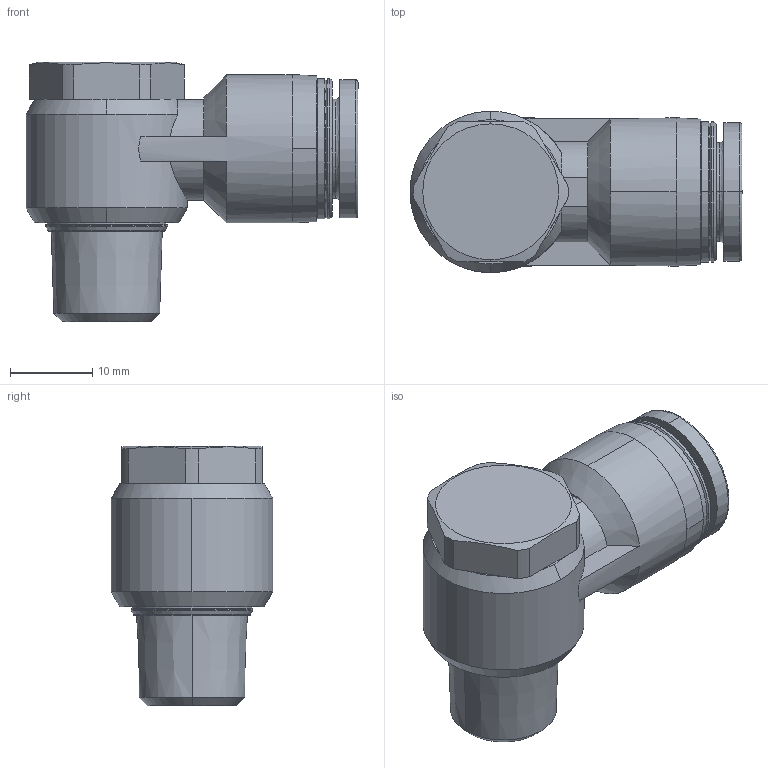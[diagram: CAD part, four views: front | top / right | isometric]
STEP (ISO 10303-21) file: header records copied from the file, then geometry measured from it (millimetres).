
FILE_DESCRIPTION (( 'STEP AP214' ), '1' );
FILE_NAME ('KQ2V10-02AS.STEP', '2023-03-06T10:01:17', ( 'Windows User' ), ( 'P R C' ), 'SwSTEP 2.0', 'SolidWorks 2019', '' );
FILE_SCHEMA (( 'AUTOMOTIVE_DESIGN' ));
Length unit declared in the file: millimetre
Products named in the file (1): KQ2V10-02AS
Bounding box: 40.3 x 19.6 x 31.5 mm (x, y, z)
Volume: 10310.8 mm3; surface area: 4369.6 mm2
Topology: 1 solids, 1 shells, 97 faces, 237 edges, 149 vertices
Faces by surface type: plane 35, cylinder 28, cone 26, bspline 8
Entity records: 3419 total; most frequent: CARTESIAN_POINT 1076, DIRECTION 515, ORIENTED_EDGE 474, EDGE_CURVE 237, AXIS2_PLACEMENT_3D 214, VERTEX_POINT 149, CIRCLE 124, EDGE_LOOP 104
